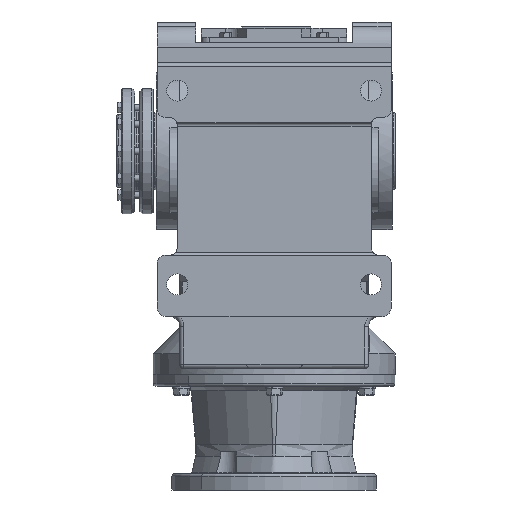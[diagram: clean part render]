
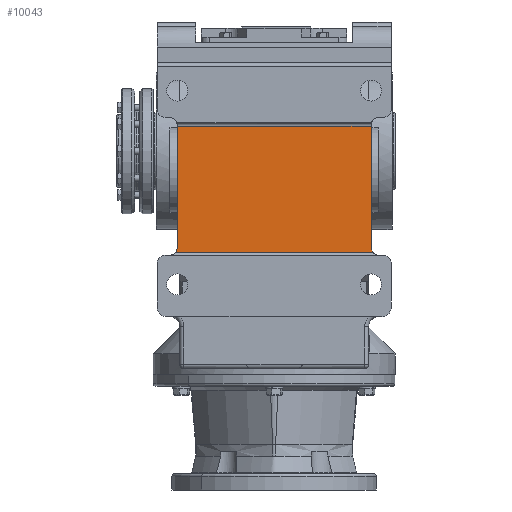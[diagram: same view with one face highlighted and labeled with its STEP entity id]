
A CAD part, front view. The second image highlights one B-rep face of the part: STEP entity #10043.
In plain terms, the highlighted planar face has unit normal (0, -1, 0).
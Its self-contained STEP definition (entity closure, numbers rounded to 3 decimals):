
#8340 = CARTESIAN_POINT ( 'NONE',  ( -145., -260., -125. ) ) ;
#8342 = DIRECTION ( 'NONE',  ( 1., 0., 0. ) ) ;
#8530 = CARTESIAN_POINT ( 'NONE',  ( -145., -260., 31. ) ) ;
#8531 = DIRECTION ( 'NONE',  ( 1., 0., 0. ) ) ;
#8535 = CARTESIAN_POINT ( 'NONE',  ( -120., -260., -125. ) ) ;
#8539 = DIRECTION ( 'NONE',  ( 0., 0., 1. ) ) ;
#8540 = CARTESIAN_POINT ( 'NONE',  ( 120., -260., 31. ) ) ;
#8541 = DIRECTION ( 'NONE',  ( 0., 0., -1. ) ) ;
#8542 = CARTESIAN_POINT ( 'NONE',  ( -130., -260., -119. ) ) ;
#8543 = DIRECTION ( 'NONE',  ( 0., 1., 0. ) ) ;
#8544 = DIRECTION ( 'NONE',  ( 0., 0., -1. ) ) ;
#8547 = CARTESIAN_POINT ( 'NONE',  ( 130., -260., -119. ) ) ;
#8548 = DIRECTION ( 'NONE',  ( 0., 1., 0. ) ) ;
#8549 = DIRECTION ( 'NONE',  ( 0., 0., -1. ) ) ;
#10043 = ADVANCED_FACE ( 'NONE', ( #41453 ), #23527, .T. ) ;
#12579 = VECTOR ( 'NONE', #8342, 1000. ) ;
#12583 = LINE ( 'NONE', #8340, #12579 ) ;
#12683 = LINE ( 'NONE', #8535, #12704 ) ;
#12700 = LINE ( 'NONE', #8530, #12702 ) ;
#12702 = VECTOR ( 'NONE', #8531, 1000. ) ;
#12703 = CIRCLE ( 'NONE', #30981, 10. ) ;
#12704 = VECTOR ( 'NONE', #8539, 1000. ) ;
#12705 = CIRCLE ( 'NONE', #30983, 10. ) ;
#12706 = LINE ( 'NONE', #8540, #12708 ) ;
#12708 = VECTOR ( 'NONE', #8541, 1000. ) ;
#23522 = CARTESIAN_POINT ( 'NONE',  ( -145., -260., 31. ) ) ;
#23527 = PLANE ( 'NONE',  #37854 ) ;
#23531 = DIRECTION ( 'NONE',  ( 0., -1., 0. ) ) ;
#23533 = DIRECTION ( 'NONE',  ( 0., 0., -1. ) ) ;
#30981 = AXIS2_PLACEMENT_3D ( 'NONE', #8542, #8543, #8544 ) ;
#30983 = AXIS2_PLACEMENT_3D ( 'NONE', #8547, #8548, #8549 ) ;
#31307 = CARTESIAN_POINT ( 'NONE',  ( 120., -260., -119. ) ) ;
#31318 = CARTESIAN_POINT ( 'NONE',  ( 120., -260., 31. ) ) ;
#31323 = CARTESIAN_POINT ( 'NONE',  ( -120., -260., 31. ) ) ;
#31328 = CARTESIAN_POINT ( 'NONE',  ( -120., -260., -119. ) ) ;
#33424 = CARTESIAN_POINT ( 'NONE',  ( 122., -260., -125. ) ) ;
#33434 = CARTESIAN_POINT ( 'NONE',  ( -122., -260., -125. ) ) ;
#37854 = AXIS2_PLACEMENT_3D ( 'NONE', #23522, #23531, #23533 ) ;
#40836 = ORIENTED_EDGE ( 'NONE', *, *, #49936, .F. ) ;
#40838 = ORIENTED_EDGE ( 'NONE', *, *, #49937, .F. ) ;
#40840 = ORIENTED_EDGE ( 'NONE', *, *, #49938, .T. ) ;
#40842 = ORIENTED_EDGE ( 'NONE', *, *, #49863, .T. ) ;
#40844 = ORIENTED_EDGE ( 'NONE', *, *, #49939, .T. ) ;
#40846 = ORIENTED_EDGE ( 'NONE', *, *, #49940, .F. ) ;
#41453 = FACE_OUTER_BOUND ( 'NONE', #50851, .T. ) ;
#49863 = EDGE_CURVE ( 'NONE', #53362, #53351, #12583, .T. ) ;
#49936 = EDGE_CURVE ( 'NONE', #53272, #53266, #12700, .T. ) ;
#49937 = EDGE_CURVE ( 'NONE', #53277, #53272, #12683, .T. ) ;
#49938 = EDGE_CURVE ( 'NONE', #53277, #53362, #12703, .T. ) ;
#49939 = EDGE_CURVE ( 'NONE', #53351, #53254, #12705, .T. ) ;
#49940 = EDGE_CURVE ( 'NONE', #53266, #53254, #12706, .T. ) ;
#50851 = EDGE_LOOP ( 'NONE', ( #40836, #40838, #40840, #40842, #40844, #40846 ) ) ;
#53254 = VERTEX_POINT ( 'NONE', #31307 ) ;
#53266 = VERTEX_POINT ( 'NONE', #31318 ) ;
#53272 = VERTEX_POINT ( 'NONE', #31323 ) ;
#53277 = VERTEX_POINT ( 'NONE', #31328 ) ;
#53351 = VERTEX_POINT ( 'NONE', #33424 ) ;
#53362 = VERTEX_POINT ( 'NONE', #33434 ) ;
